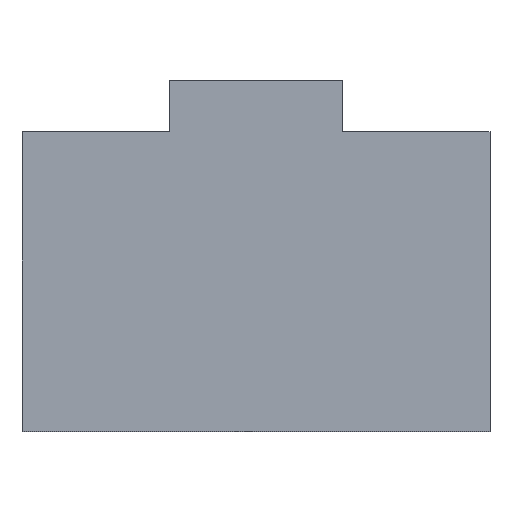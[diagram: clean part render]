
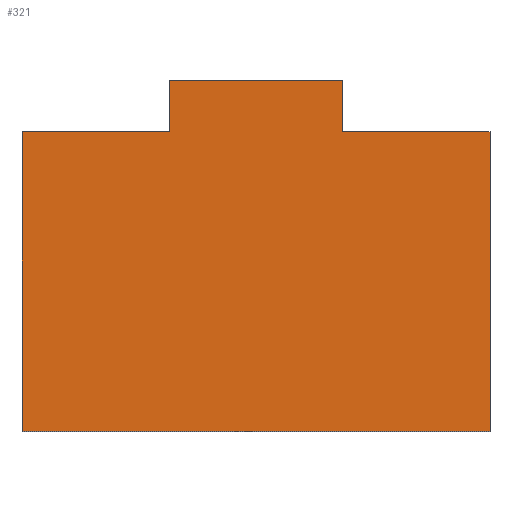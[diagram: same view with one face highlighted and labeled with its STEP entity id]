
A CAD part, top view. The second image highlights one B-rep face of the part: STEP entity #321.
In plain terms, the highlighted planar face has unit normal (0, 0, 1).
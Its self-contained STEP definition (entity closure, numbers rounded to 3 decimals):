
#1 = CARTESIAN_POINT ( 'NONE',  ( 3.7, 9.7, 10. ) ) ;
#6 = ORIENTED_EDGE ( 'NONE', *, *, #41, .F. ) ;
#8 = VERTEX_POINT ( 'NONE', #292 ) ;
#11 = EDGE_CURVE ( 'NONE', #108, #223, #315, .T. ) ;
#18 = VECTOR ( 'NONE', #295, 1000. ) ;
#24 = VECTOR ( 'NONE', #128, 1000. ) ;
#25 = CARTESIAN_POINT ( 'NONE',  ( 10., 7.5, 10. ) ) ;
#28 = DIRECTION ( 'NONE',  ( 0., -1., 0. ) ) ;
#29 = CARTESIAN_POINT ( 'NONE',  ( 3.7, 7.5, 10. ) ) ;
#37 = CARTESIAN_POINT ( 'NONE',  ( -3.7, 9.7, 10. ) ) ;
#41 = EDGE_CURVE ( 'NONE', #108, #329, #67, .T. ) ;
#47 = AXIS2_PLACEMENT_3D ( 'NONE', #77, #287, #51 ) ;
#48 = LINE ( 'NONE', #307, #237 ) ;
#51 = DIRECTION ( 'NONE',  ( 1., 0., 0. ) ) ;
#54 = ORIENTED_EDGE ( 'NONE', *, *, #152, .T. ) ;
#67 = LINE ( 'NONE', #256, #220 ) ;
#75 = LINE ( 'NONE', #1, #94 ) ;
#77 = CARTESIAN_POINT ( 'NONE',  ( -10., 7.5, 10. ) ) ;
#82 = ORIENTED_EDGE ( 'NONE', *, *, #277, .T. ) ;
#87 = DIRECTION ( 'NONE',  ( 0., 1., 0. ) ) ;
#94 = VECTOR ( 'NONE', #206, 1000. ) ;
#101 = PLANE ( 'NONE',  #47 ) ;
#104 = VECTOR ( 'NONE', #28, 1000. ) ;
#108 = VERTEX_POINT ( 'NONE', #222 ) ;
#112 = LINE ( 'NONE', #245, #18 ) ;
#119 = ORIENTED_EDGE ( 'NONE', *, *, #168, .T. ) ;
#126 = LINE ( 'NONE', #282, #104 ) ;
#128 = DIRECTION ( 'NONE',  ( -1., 0., 0. ) ) ;
#152 = EDGE_CURVE ( 'NONE', #8, #280, #169, .T. ) ;
#154 = LINE ( 'NONE', #25, #24 ) ;
#155 = ORIENTED_EDGE ( 'NONE', *, *, #333, .T. ) ;
#165 = VERTEX_POINT ( 'NONE', #247 ) ;
#168 = EDGE_CURVE ( 'NONE', #280, #299, #112, .T. ) ;
#169 = LINE ( 'NONE', #37, #244 ) ;
#181 = DIRECTION ( 'NONE',  ( 0., 1., 0. ) ) ;
#206 = DIRECTION ( 'NONE',  ( -1., 0., 0. ) ) ;
#207 = CARTESIAN_POINT ( 'NONE',  ( -10., 7.5, 10. ) ) ;
#220 = VECTOR ( 'NONE', #301, 1000. ) ;
#222 = CARTESIAN_POINT ( 'NONE',  ( 10., -5.3, 10. ) ) ;
#223 = VERTEX_POINT ( 'NONE', #320 ) ;
#224 = ORIENTED_EDGE ( 'NONE', *, *, #11, .T. ) ;
#236 = EDGE_CURVE ( 'NONE', #165, #8, #75, .T. ) ;
#237 = VECTOR ( 'NONE', #181, 1000. ) ;
#242 = ORIENTED_EDGE ( 'NONE', *, *, #236, .T. ) ;
#244 = VECTOR ( 'NONE', #270, 1000. ) ;
#245 = CARTESIAN_POINT ( 'NONE',  ( -3.7, 7.5, 10. ) ) ;
#247 = CARTESIAN_POINT ( 'NONE',  ( 3.7, 9.7, 10. ) ) ;
#255 = ORIENTED_EDGE ( 'NONE', *, *, #271, .T. ) ;
#256 = CARTESIAN_POINT ( 'NONE',  ( -10., -5.3, 10. ) ) ;
#262 = CARTESIAN_POINT ( 'NONE',  ( -3.7, 7.5, 10. ) ) ;
#264 = CARTESIAN_POINT ( 'NONE',  ( -10., -5.3, 10. ) ) ;
#270 = DIRECTION ( 'NONE',  ( 0., -1., 0. ) ) ;
#271 = EDGE_CURVE ( 'NONE', #223, #300, #154, .T. ) ;
#277 = EDGE_CURVE ( 'NONE', #299, #329, #126, .T. ) ;
#280 = VERTEX_POINT ( 'NONE', #262 ) ;
#282 = CARTESIAN_POINT ( 'NONE',  ( -10., 7.5, 10. ) ) ;
#287 = DIRECTION ( 'NONE',  ( 0., 0., 1. ) ) ;
#289 = VECTOR ( 'NONE', #87, 1000. ) ;
#292 = CARTESIAN_POINT ( 'NONE',  ( -3.7, 9.7, 10. ) ) ;
#295 = DIRECTION ( 'NONE',  ( -1., 0., 0. ) ) ;
#299 = VERTEX_POINT ( 'NONE', #207 ) ;
#300 = VERTEX_POINT ( 'NONE', #29 ) ;
#301 = DIRECTION ( 'NONE',  ( -1., 0., 0. ) ) ;
#307 = CARTESIAN_POINT ( 'NONE',  ( 3.7, 7.5, 10. ) ) ;
#315 = LINE ( 'NONE', #319, #289 ) ;
#319 = CARTESIAN_POINT ( 'NONE',  ( 10., -7.5, 10. ) ) ;
#320 = CARTESIAN_POINT ( 'NONE',  ( 10., 7.5, 10. ) ) ;
#321 = ADVANCED_FACE ( 'NONE', ( #334 ), #101, .T. ) ;
#329 = VERTEX_POINT ( 'NONE', #264 ) ;
#331 = EDGE_LOOP ( 'NONE', ( #82, #6, #224, #255, #155, #242, #54, #119 ) ) ;
#333 = EDGE_CURVE ( 'NONE', #300, #165, #48, .T. ) ;
#334 = FACE_OUTER_BOUND ( 'NONE', #331, .T. ) ;
